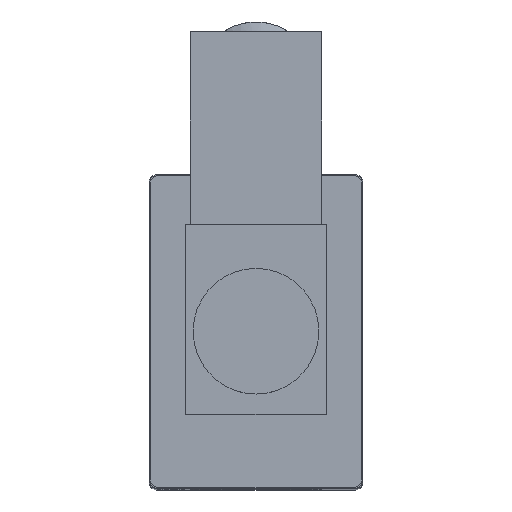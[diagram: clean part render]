
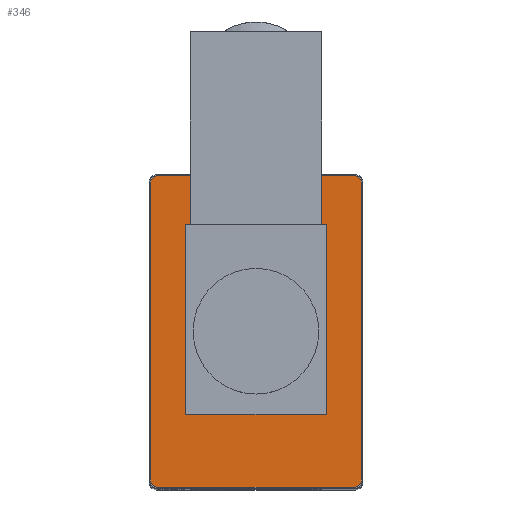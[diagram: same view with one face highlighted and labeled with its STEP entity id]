
A CAD part, top view. The second image highlights one B-rep face of the part: STEP entity #346.
In plain terms, the highlighted planar face has unit normal (0, 0, 1).
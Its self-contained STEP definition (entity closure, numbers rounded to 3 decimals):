
#346 = ADVANCED_FACE( '', ( #790, #791 ), #792, .T. );
#790 = FACE_BOUND( '', #1309, .T. );
#791 = FACE_OUTER_BOUND( '', #1310, .T. );
#792 = PLANE( '', #1311 );
#1309 = EDGE_LOOP( '', ( #2228, #2229, #2230, #2231 ) );
#1310 = EDGE_LOOP( '', ( #2232, #2233, #2234, #2235, #2236, #2237, #2238, #2239 ) );
#1311 = AXIS2_PLACEMENT_3D( '', #2240, #2241, #2242 );
#2228 = ORIENTED_EDGE( '', *, *, #2841, .F. );
#2229 = ORIENTED_EDGE( '', *, *, #3068, .T. );
#2230 = ORIENTED_EDGE( '', *, *, #2963, .T. );
#2231 = ORIENTED_EDGE( '', *, *, #2900, .T. );
#2232 = ORIENTED_EDGE( '', *, *, #3069, .T. );
#2233 = ORIENTED_EDGE( '', *, *, #2925, .T. );
#2234 = ORIENTED_EDGE( '', *, *, #2725, .T. );
#2235 = ORIENTED_EDGE( '', *, *, #3070, .T. );
#2236 = ORIENTED_EDGE( '', *, *, #2860, .T. );
#2237 = ORIENTED_EDGE( '', *, *, #2975, .T. );
#2238 = ORIENTED_EDGE( '', *, *, #3062, .T. );
#2239 = ORIENTED_EDGE( '', *, *, #3008, .T. );
#2240 = CARTESIAN_POINT( '', ( -15.6, 23.6, 28.2 ) );
#2241 = DIRECTION( '', ( 0., 0., 1. ) );
#2242 = DIRECTION( '', ( 1., 0., 0. ) );
#2725 = EDGE_CURVE( '', #3183, #3181, #3184, .T. );
#2841 = EDGE_CURVE( '', #3386, #3388, #3389, .T. );
#2860 = EDGE_CURVE( '', #3420, #3418, #3421, .T. );
#2900 = EDGE_CURVE( '', #3485, #3388, #3486, .T. );
#2925 = EDGE_CURVE( '', #3524, #3183, #3525, .T. );
#2963 = EDGE_CURVE( '', #3579, #3485, #3580, .T. );
#2975 = EDGE_CURVE( '', #3418, #3596, #3598, .T. );
#3008 = EDGE_CURVE( '', #3642, #3640, #3643, .T. );
#3062 = EDGE_CURVE( '', #3596, #3642, #3720, .T. );
#3068 = EDGE_CURVE( '', #3386, #3579, #3728, .T. );
#3069 = EDGE_CURVE( '', #3640, #3524, #3729, .T. );
#3070 = EDGE_CURVE( '', #3181, #3420, #3730, .T. );
#3181 = VERTEX_POINT( '', #3857 );
#3183 = VERTEX_POINT( '', #3860 );
#3184 = CIRCLE( '', #3861, 1.2 );
#3386 = VERTEX_POINT( '', #4142 );
#3388 = VERTEX_POINT( '', #4145 );
#3389 = LINE( '', #4146, #4147 );
#3418 = VERTEX_POINT( '', #4184 );
#3420 = VERTEX_POINT( '', #4187 );
#3421 = CIRCLE( '', #4188, 1.2 );
#3485 = VERTEX_POINT( '', #4268 );
#3486 = LINE( '', #4269, #4270 );
#3524 = VERTEX_POINT( '', #4318 );
#3525 = LINE( '', #4319, #4320 );
#3579 = VERTEX_POINT( '', #4391 );
#3580 = LINE( '', #4392, #4393 );
#3596 = VERTEX_POINT( '', #4411 );
#3598 = LINE( '', #4414, #4415 );
#3640 = VERTEX_POINT( '', #4465 );
#3642 = VERTEX_POINT( '', #4468 );
#3643 = LINE( '', #4469, #4470 );
#3720 = CIRCLE( '', #4564, 1.2 );
#3728 = LINE( '', #4575, #4576 );
#3729 = CIRCLE( '', #4577, 1.2 );
#3730 = LINE( '', #4578, #4579 );
#3857 = CARTESIAN_POINT( '', ( -15.6, -24.8, 28.2 ) );
#3860 = CARTESIAN_POINT( '', ( -16.8, -23.6, 28.2 ) );
#3861 = AXIS2_PLACEMENT_3D( '', #4759, #4760, #4761 );
#4142 = CARTESIAN_POINT( '', ( 11.15, -13.2, 28.2 ) );
#4145 = CARTESIAN_POINT( '', ( 11.15, 17., 28.2 ) );
#4146 = CARTESIAN_POINT( '', ( 11.15, 23.6, 28.2 ) );
#4147 = VECTOR( '', #4929, 1000. );
#4184 = CARTESIAN_POINT( '', ( 16.8, -23.6, 28.2 ) );
#4187 = CARTESIAN_POINT( '', ( 15.6, -24.8, 28.2 ) );
#4188 = AXIS2_PLACEMENT_3D( '', #4954, #4955, #4956 );
#4268 = CARTESIAN_POINT( '', ( -11.15, 17., 28.2 ) );
#4269 = CARTESIAN_POINT( '', ( -15.6, 17., 28.2 ) );
#4270 = VECTOR( '', #5018, 1000. );
#4318 = CARTESIAN_POINT( '', ( -16.8, 23.6, 28.2 ) );
#4319 = CARTESIAN_POINT( '', ( -16.8, 23.6, 28.2 ) );
#4320 = VECTOR( '', #5050, 1000. );
#4391 = CARTESIAN_POINT( '', ( -11.15, -13.2, 28.2 ) );
#4392 = CARTESIAN_POINT( '', ( -11.15, 23.6, 28.2 ) );
#4393 = VECTOR( '', #5095, 1000. );
#4411 = CARTESIAN_POINT( '', ( 16.8, 23.6, 28.2 ) );
#4414 = CARTESIAN_POINT( '', ( 16.8, -23.6, 28.2 ) );
#4415 = VECTOR( '', #5111, 1000. );
#4465 = CARTESIAN_POINT( '', ( -15.6, 24.8, 28.2 ) );
#4468 = CARTESIAN_POINT( '', ( 15.6, 24.8, 28.2 ) );
#4469 = CARTESIAN_POINT( '', ( 15.6, 24.8, 28.2 ) );
#4470 = VECTOR( '', #5148, 1000. );
#4564 = AXIS2_PLACEMENT_3D( '', #5220, #5221, #5222 );
#4575 = CARTESIAN_POINT( '', ( -15.6, -13.2, 28.2 ) );
#4576 = VECTOR( '', #5226, 1000. );
#4577 = AXIS2_PLACEMENT_3D( '', #5227, #5228, #5229 );
#4578 = CARTESIAN_POINT( '', ( -15.6, -24.8, 28.2 ) );
#4579 = VECTOR( '', #5230, 1000. );
#4759 = CARTESIAN_POINT( '', ( -15.6, -23.6, 28.2 ) );
#4760 = DIRECTION( '', ( 0., 0., 1. ) );
#4761 = DIRECTION( '', ( 1., 0., 0. ) );
#4929 = DIRECTION( '', ( 0., 1., 0. ) );
#4954 = CARTESIAN_POINT( '', ( 15.6, -23.6, 28.2 ) );
#4955 = DIRECTION( '', ( 0., 0., 1. ) );
#4956 = DIRECTION( '', ( 1., 0., 0. ) );
#5018 = DIRECTION( '', ( 1., 0., 0. ) );
#5050 = DIRECTION( '', ( 0., -1., 0. ) );
#5095 = DIRECTION( '', ( 0., 1., 0. ) );
#5111 = DIRECTION( '', ( 0., 1., 0. ) );
#5148 = DIRECTION( '', ( -1., 0., 0. ) );
#5220 = CARTESIAN_POINT( '', ( 15.6, 23.6, 28.2 ) );
#5221 = DIRECTION( '', ( 0., 0., 1. ) );
#5222 = DIRECTION( '', ( 1., 0., 0. ) );
#5226 = DIRECTION( '', ( -1., 0., 0. ) );
#5227 = CARTESIAN_POINT( '', ( -15.6, 23.6, 28.2 ) );
#5228 = DIRECTION( '', ( 0., 0., 1. ) );
#5229 = DIRECTION( '', ( 1., 0., 0. ) );
#5230 = DIRECTION( '', ( 1., 0., 0. ) );
